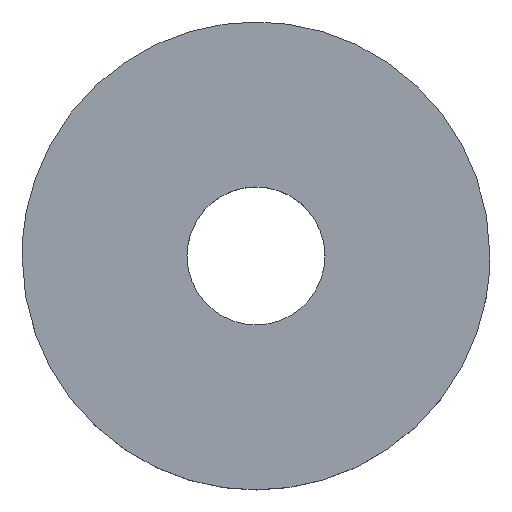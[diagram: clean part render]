
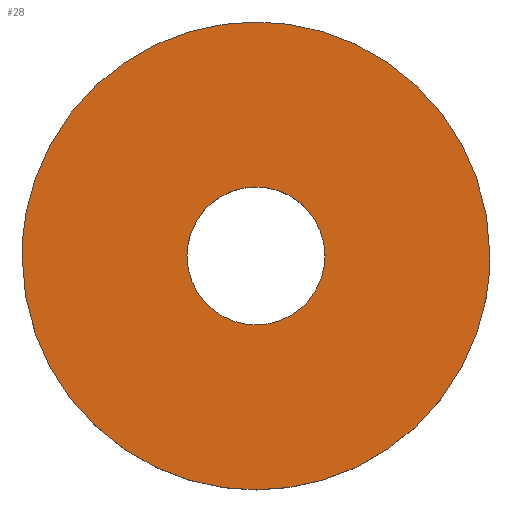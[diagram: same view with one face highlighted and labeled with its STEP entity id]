
A CAD part, top view. The second image highlights one B-rep face of the part: STEP entity #28.
In plain terms, the highlighted planar face has unit normal (0, 0, 1).
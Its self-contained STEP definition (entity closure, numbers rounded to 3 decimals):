
#25=FACE_BOUND('',#42,.T.);
#28=ADVANCED_FACE('',(#34,#25),#105,.T.);
#34=FACE_OUTER_BOUND('',#41,.T.);
#41=EDGE_LOOP('',(#54,#55));
#42=EDGE_LOOP('',(#56,#57));
#54=ORIENTED_EDGE('',*,*,#72,.T.);
#55=ORIENTED_EDGE('',*,*,#78,.T.);
#56=ORIENTED_EDGE('',*,*,#74,.T.);
#57=ORIENTED_EDGE('',*,*,#81,.T.);
#72=EDGE_CURVE('',#95,#99,#90,.T.);
#74=EDGE_CURVE('',#97,#100,#83,.T.);
#78=EDGE_CURVE('',#99,#95,#93,.T.);
#81=EDGE_CURVE('',#100,#97,#87,.T.);
#83=B_SPLINE_CURVE_WITH_KNOTS('',3,(#275,#276,#277,#278,#279,#280,#281,
#282,#283,#284,#285,#286,#287,#288,#289,#290,#291,#292,#293),
 .UNSPECIFIED.,.F.,.F.,(4,1,1,1,1,1,1,1,1,1,1,1,1,1,1,1,4),(-111.212,
-107.973,-104.54,-100.963,-97.311,
-93.658,-90.081,-86.648,-83.409,
-80.17,-76.737,-73.16,-69.508,
-65.855,-62.278,-58.845,-55.606),
 .UNSPECIFIED.);
#87=B_SPLINE_CURVE_WITH_KNOTS('',3,(#329,#330,#331,#332,#333,#334,#335,
#336,#337,#338,#339,#340,#341,#342,#343,#344,#345,#346,#347),
 .UNSPECIFIED.,.F.,.F.,(4,1,1,1,1,1,1,1,1,1,1,1,1,1,1,1,4),(-55.606,
-52.367,-48.934,-45.357,-41.705,-38.052,
-34.475,-31.042,-27.803,-24.564,
-21.131,-17.554,-13.902,-10.249,
-6.672,-3.239,0.),.UNSPECIFIED.);
#90=(
BOUNDED_CURVE()
B_SPLINE_CURVE(2,(#251,#252,#253,#254,#255),.UNSPECIFIED.,.F.,.F.)
B_SPLINE_CURVE_WITH_KNOTS((3,2,3),(0.,94.248,188.496),
 .UNSPECIFIED.)
CURVE()
GEOMETRIC_REPRESENTATION_ITEM()
RATIONAL_B_SPLINE_CURVE((1.,0.707,1.,0.707,1.))
REPRESENTATION_ITEM('')
);
#93=(
BOUNDED_CURVE()
B_SPLINE_CURVE(2,(#303,#304,#305,#306,#307),.UNSPECIFIED.,.F.,.F.)
B_SPLINE_CURVE_WITH_KNOTS((3,2,3),(188.496,282.743,376.991),
 .UNSPECIFIED.)
CURVE()
GEOMETRIC_REPRESENTATION_ITEM()
RATIONAL_B_SPLINE_CURVE((1.,0.707,1.,0.707,1.))
REPRESENTATION_ITEM('')
);
#95=VERTEX_POINT('',#237);
#97=VERTEX_POINT('',#239);
#99=VERTEX_POINT('',#241);
#100=VERTEX_POINT('',#242);
#105=PLANE('',#129);
#129=AXIS2_PLACEMENT_3D('',#149,#134,$);
#134=DIRECTION('',(0.,0.,1.));
#149=CARTESIAN_POINT('',(-75.,-75.,70.));
#237=CARTESIAN_POINT('',(60.,0.,70.));
#239=CARTESIAN_POINT('',(17.7,0.,70.));
#241=CARTESIAN_POINT('',(-60.,0.,70.));
#242=CARTESIAN_POINT('',(-17.7,0.,70.));
#251=CARTESIAN_POINT('',(60.,0.,70.));
#252=CARTESIAN_POINT('',(60.,60.,70.));
#253=CARTESIAN_POINT('',(0.,60.,70.));
#254=CARTESIAN_POINT('',(-60.,60.,70.));
#255=CARTESIAN_POINT('',(-60.,0.,70.));
#275=CARTESIAN_POINT('',(17.7,0.,70.));
#276=CARTESIAN_POINT('',(17.7,-1.08,70.));
#277=CARTESIAN_POINT('',(17.496,-3.304,70.));
#278=CARTESIAN_POINT('',(16.548,-6.602,70.));
#279=CARTESIAN_POINT('',(14.904,-9.774,70.));
#280=CARTESIAN_POINT('',(12.605,-12.605,70.));
#281=CARTESIAN_POINT('',(9.774,-14.904,70.));
#282=CARTESIAN_POINT('',(6.602,-16.548,70.));
#283=CARTESIAN_POINT('',(3.304,-17.496,70.));
#284=CARTESIAN_POINT('',(0.,-17.799,70.));
#285=CARTESIAN_POINT('',(-3.304,-17.496,70.));
#286=CARTESIAN_POINT('',(-6.602,-16.548,70.));
#287=CARTESIAN_POINT('',(-9.774,-14.904,70.));
#288=CARTESIAN_POINT('',(-12.605,-12.605,70.));
#289=CARTESIAN_POINT('',(-14.904,-9.774,70.));
#290=CARTESIAN_POINT('',(-16.548,-6.602,70.));
#291=CARTESIAN_POINT('',(-17.496,-3.304,70.));
#292=CARTESIAN_POINT('',(-17.7,-1.08,70.));
#293=CARTESIAN_POINT('',(-17.7,0.,70.));
#303=CARTESIAN_POINT('',(-60.,0.,70.));
#304=CARTESIAN_POINT('',(-60.,-60.,70.));
#305=CARTESIAN_POINT('',(0.,-60.,70.));
#306=CARTESIAN_POINT('',(60.,-60.,70.));
#307=CARTESIAN_POINT('',(60.,0.,70.));
#329=CARTESIAN_POINT('',(-17.7,0.,70.));
#330=CARTESIAN_POINT('',(-17.7,1.08,70.));
#331=CARTESIAN_POINT('',(-17.496,3.304,70.));
#332=CARTESIAN_POINT('',(-16.548,6.602,70.));
#333=CARTESIAN_POINT('',(-14.904,9.774,70.));
#334=CARTESIAN_POINT('',(-12.605,12.605,70.));
#335=CARTESIAN_POINT('',(-9.774,14.904,70.));
#336=CARTESIAN_POINT('',(-6.602,16.548,70.));
#337=CARTESIAN_POINT('',(-3.304,17.496,70.));
#338=CARTESIAN_POINT('',(0.,17.799,70.));
#339=CARTESIAN_POINT('',(3.304,17.496,70.));
#340=CARTESIAN_POINT('',(6.602,16.548,70.));
#341=CARTESIAN_POINT('',(9.774,14.904,70.));
#342=CARTESIAN_POINT('',(12.605,12.605,70.));
#343=CARTESIAN_POINT('',(14.904,9.774,70.));
#344=CARTESIAN_POINT('',(16.548,6.602,70.));
#345=CARTESIAN_POINT('',(17.496,3.304,70.));
#346=CARTESIAN_POINT('',(17.7,1.08,70.));
#347=CARTESIAN_POINT('',(17.7,0.,70.));
